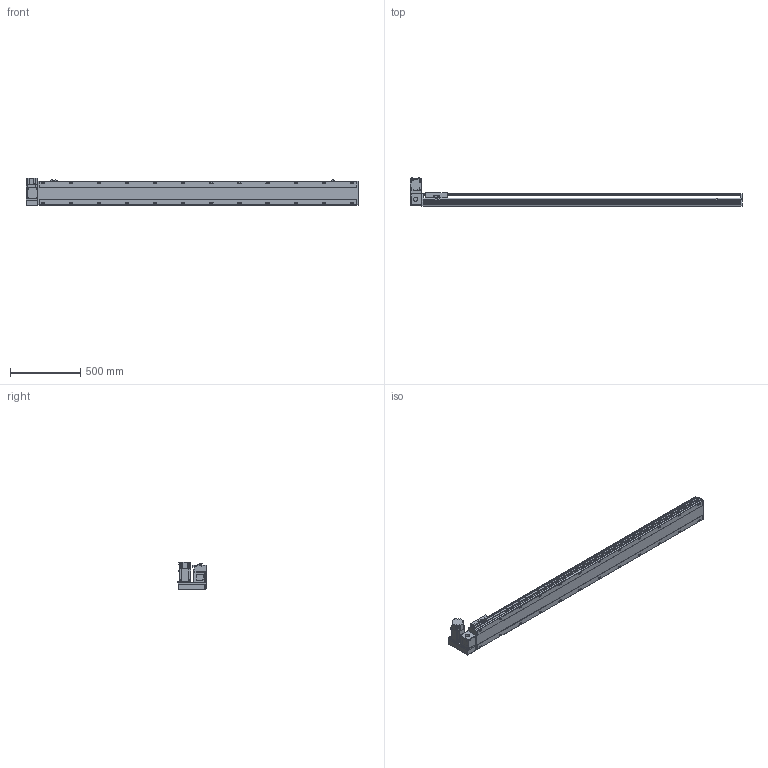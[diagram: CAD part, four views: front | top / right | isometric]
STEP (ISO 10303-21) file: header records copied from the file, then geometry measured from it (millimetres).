
FILE_DESCRIPTION( ( 'STEP AP214' ), '1' );
FILE_NAME( 'x:/temp/worker_4/temp/exporttempdir_2248_411_r30R0/format_0/PBS170-P40-S2000-LU-T75-C1-N(0).stp', '2022-06-07T08:16:47', ( 'License CC BY-ND 4.0' ), ( 'CADENAS' ), ' ', 'PARTsolutions', ' ' );
FILE_SCHEMA( ( 'AUTOMOTIVE_DESIGN { 1 0 10303 214 1 1 1 1 }' ) );
Length unit declared in the file: millimetre
Products named in the file (7): PBS170-P40-S2000-LU-T75-C1-N(0); _PBS170-S2000()_body; _PBS170T-LU_motors; _T75-p1; _PBS170_sliser; _PBS170_plant; _PBS170_sensor
Assembly tree (8 placements, depth 2):
  PBS170-P40-S2000-LU-T75-C1-N(0)
    _PBS170-S2000()_body
    _PBS170T-LU_motors
    _T75-p1
    _PBS170_sliser
    _PBS170_plant
    _PBS170_sensor  x3
Bounding box: 2363 x 206 x 197.3 mm (x, y, z)
Volume: 18117965.5 mm3; surface area: 2298960.7 mm2
Topology: 8 solids, 8 shells, 1146 faces, 3035 edges, 1978 vertices
Faces by surface type: plane 711, cylinder 371, cone 54, sphere 8, torus 2
Full cylindrical faces by diameter (mm): 3.242 x4, 4 x2, 4.4 x4, 4.5 x6, 4.917 x4, 6 x9, 6.647 x32, 7 x2, 7.5 x4, 8 x8, 8.5 x24, 10 x4, 10.5 x24, 11 x2, 30 x2, 40 x1, 70 x1
Entity records: 42308 total; most frequent: CARTESIAN_POINT 6893, DIRECTION 5580, ORIENTED_EDGE 5268, EDGE_CURVE 2634, AXIS2_PLACEMENT_3D 1957, VERTEX_POINT 1826, LINE 1666, VECTOR 1666
